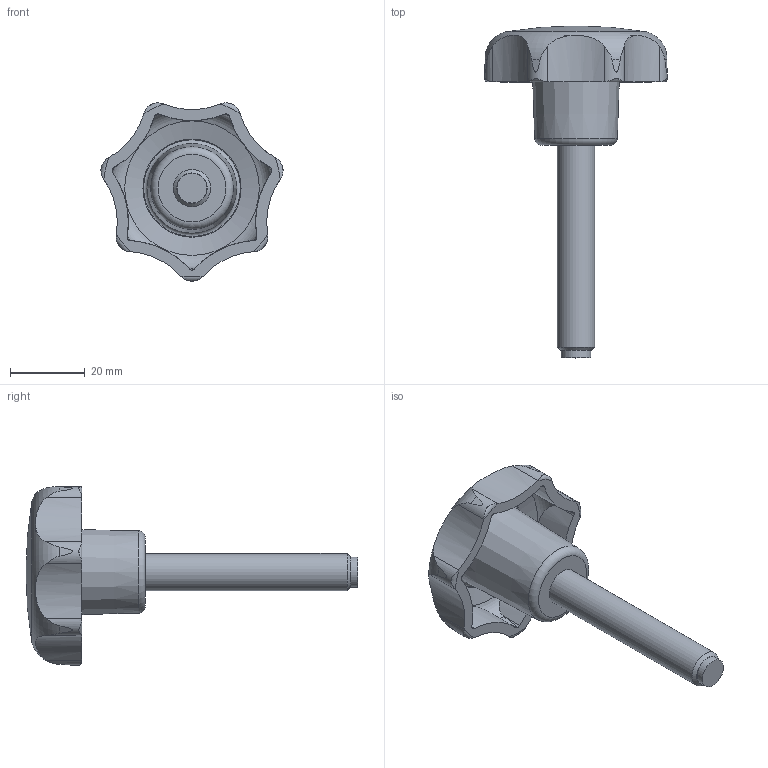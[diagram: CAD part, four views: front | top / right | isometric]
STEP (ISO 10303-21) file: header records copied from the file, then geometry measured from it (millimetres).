
FILE_DESCRIPTION( ( 'STEP AP203' ), '1' );
FILE_NAME( 'C:/Temp/Ganter_Step_05_03_2020/data/2_2/gn6336_10/Star knob GN 6336.10-50-M10-55-MS.stp', '2020-03-05T12:04:16', ( 'License CC BY-ND 4.0' ), ( 'CADENAS' ), ' ', 'PARTsolutions', ' ' );
FILE_SCHEMA( ( 'CONFIG_CONTROL_DESIGN' ) );
Length unit declared in the file: millimetre
Products named in the file (1): _Star knob GN 6336.10-50-M10-55-MS
Bounding box: 48.81 x 89 x 47.78 mm (x, y, z)
Volume: 24989.3 mm3; surface area: 10038.1 mm2
Topology: 1 solids, 1 shells, 64 faces, 189 edges, 129 vertices
Faces by surface type: cylinder 30, cone 17, torus 12, plane 4, sphere 1
Full cylindrical faces by diameter (mm): 8 x1, 10 x1
Entity records: 3108 total; most frequent: CARTESIAN_POINT 1546, ORIENTED_EDGE 346, DIRECTION 266, EDGE_CURVE 173, VERTEX_POINT 125, AXIS2_PLACEMENT_3D 119, B_SPLINE_CURVE_WITH_KNOTS 91, EDGE_LOOP 77
